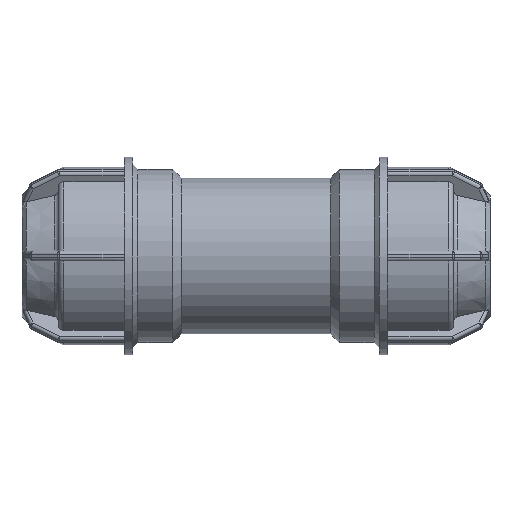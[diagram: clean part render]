
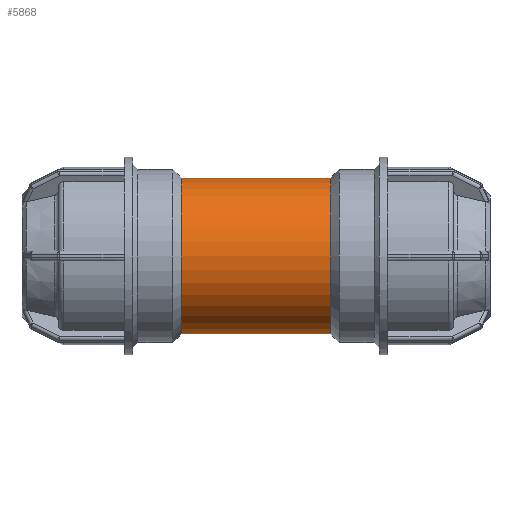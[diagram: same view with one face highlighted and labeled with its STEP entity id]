
A CAD part, front view. The second image highlights one B-rep face of the part: STEP entity #5868.
In plain terms, the highlighted cylindrical face has radius 28.8 mm (diameter 57.6 mm), a full revolution.
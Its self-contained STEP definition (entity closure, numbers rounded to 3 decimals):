
#1047=B_SPLINE_CURVE_WITH_KNOTS('',3,(#8914,#8915,#8916,#8917,#8918,#8919,
#8920,#8921,#8922,#8923,#8924,#8925,#8926,#8927,#8928,#8929,#8930,#8931,
#8932,#8933,#8934,#8935,#8936,#8937,#8938,#8939,#8940,#8941,#8942,#8943,
#8944,#8945,#8946,#8947,#8948,#8949,#8950,#8951,#8952,#8953,#8954,#8955,
#8956,#8957,#8958,#8959,#8960,#8961,#8962,#8963),.UNSPECIFIED.,.T.,.F.,
(4,2,2,2,2,2,2,2,2,2,2,2,2,2,2,2,2,2,2,2,2,2,2,2,4),(0.,0.305,
0.61,1.219,1.826,2.13,2.433,
2.737,3.04,3.647,4.257,4.562,
4.866,5.171,5.476,6.086,6.693,
6.996,7.3,7.603,7.907,8.514,
9.123,9.428,9.733),.UNSPECIFIED.);
#1229=FACE_BOUND('',#1680,.T.);
#1230=FACE_BOUND('',#1681,.T.);
#1269=FACE_OUTER_BOUND('',#1679,.T.);
#1679=EDGE_LOOP('',(#3924));
#1680=EDGE_LOOP('',(#3925));
#1681=EDGE_LOOP('',(#3926));
#2129=CIRCLE('',#6281,28.8);
#2130=CIRCLE('',#6282,28.8);
#2474=VERTEX_POINT('',#8909);
#2475=VERTEX_POINT('',#8911);
#2476=VERTEX_POINT('',#8913);
#3013=EDGE_CURVE('',#2474,#2474,#2129,.T.);
#3014=EDGE_CURVE('',#2475,#2475,#2130,.T.);
#3015=EDGE_CURVE('',#2476,#2476,#1047,.T.);
#3924=ORIENTED_EDGE('',*,*,#3013,.F.);
#3925=ORIENTED_EDGE('',*,*,#3014,.T.);
#3926=ORIENTED_EDGE('',*,*,#3015,.F.);
#5746=CYLINDRICAL_SURFACE('',#6280,28.8);
#5868=ADVANCED_FACE('',(#1269,#1229,#1230),#5746,.T.);
#6280=AXIS2_PLACEMENT_3D('',#8908,#7037,#7038);
#6281=AXIS2_PLACEMENT_3D('',#8910,#7039,#7040);
#6282=AXIS2_PLACEMENT_3D('',#8912,#7041,#7042);
#7037=DIRECTION('center_axis',(1.,0.,0.));
#7038=DIRECTION('ref_axis',(0.,1.,0.));
#7039=DIRECTION('center_axis',(1.,0.,0.));
#7040=DIRECTION('ref_axis',(0.,0.,-1.));
#7041=DIRECTION('center_axis',(1.,0.,0.));
#7042=DIRECTION('ref_axis',(0.,0.,-1.));
#8908=CARTESIAN_POINT('Origin',(13.8,0.,0.));
#8909=CARTESIAN_POINT('',(27.6,28.8,0.));
#8910=CARTESIAN_POINT('Origin',(27.6,0.,0.));
#8911=CARTESIAN_POINT('',(-27.6,28.8,0.));
#8912=CARTESIAN_POINT('Origin',(-27.6,0.,0.));
#8913=CARTESIAN_POINT('',(0.,24.111,15.751));
#8914=CARTESIAN_POINT('Ctrl Pts',(0.,24.111,15.751));
#8915=CARTESIAN_POINT('Ctrl Pts',(1.016,24.111,15.751));
#8916=CARTESIAN_POINT('Ctrl Pts',(2.057,24.177,15.652));
#8917=CARTESIAN_POINT('Ctrl Pts',(4.11,24.438,15.242));
#8918=CARTESIAN_POINT('Ctrl Pts',(5.123,24.631,14.932));
#8919=CARTESIAN_POINT('Ctrl Pts',(8.019,25.341,13.718));
#8920=CARTESIAN_POINT('Ctrl Pts',(9.76,25.981,12.515));
#8921=CARTESIAN_POINT('Ctrl Pts',(12.51,27.134,9.766));
#8922=CARTESIAN_POINT('Ctrl Pts',(13.716,27.731,8.023));
#8923=CARTESIAN_POINT('Ctrl Pts',(14.933,28.358,5.121));
#8924=CARTESIAN_POINT('Ctrl Pts',(15.243,28.525,4.106));
#8925=CARTESIAN_POINT('Ctrl Pts',(15.652,28.745,2.051));
#8926=CARTESIAN_POINT('Ctrl Pts',(15.751,28.8,1.012));
#8927=CARTESIAN_POINT('Ctrl Pts',(15.751,28.8,-1.012));
#8928=CARTESIAN_POINT('Ctrl Pts',(15.652,28.745,-2.051));
#8929=CARTESIAN_POINT('Ctrl Pts',(15.243,28.525,-4.106));
#8930=CARTESIAN_POINT('Ctrl Pts',(14.933,28.358,-5.121));
#8931=CARTESIAN_POINT('Ctrl Pts',(13.716,27.731,-8.023));
#8932=CARTESIAN_POINT('Ctrl Pts',(12.51,27.134,-9.766));
#8933=CARTESIAN_POINT('Ctrl Pts',(9.76,25.981,-12.515));
#8934=CARTESIAN_POINT('Ctrl Pts',(8.019,25.341,-13.718));
#8935=CARTESIAN_POINT('Ctrl Pts',(5.123,24.631,-14.932));
#8936=CARTESIAN_POINT('Ctrl Pts',(4.11,24.438,-15.242));
#8937=CARTESIAN_POINT('Ctrl Pts',(2.057,24.177,-15.652));
#8938=CARTESIAN_POINT('Ctrl Pts',(1.016,24.111,-15.751));
#8939=CARTESIAN_POINT('Ctrl Pts',(-1.016,24.111,-15.751));
#8940=CARTESIAN_POINT('Ctrl Pts',(-2.057,24.177,-15.652));
#8941=CARTESIAN_POINT('Ctrl Pts',(-4.11,24.438,-15.242));
#8942=CARTESIAN_POINT('Ctrl Pts',(-5.123,24.631,-14.932));
#8943=CARTESIAN_POINT('Ctrl Pts',(-8.019,25.341,-13.718));
#8944=CARTESIAN_POINT('Ctrl Pts',(-9.76,25.981,-12.515));
#8945=CARTESIAN_POINT('Ctrl Pts',(-12.51,27.134,-9.766));
#8946=CARTESIAN_POINT('Ctrl Pts',(-13.716,27.731,-8.023));
#8947=CARTESIAN_POINT('Ctrl Pts',(-14.933,28.358,-5.121));
#8948=CARTESIAN_POINT('Ctrl Pts',(-15.243,28.525,-4.106));
#8949=CARTESIAN_POINT('Ctrl Pts',(-15.652,28.745,-2.051));
#8950=CARTESIAN_POINT('Ctrl Pts',(-15.751,28.8,-1.012));
#8951=CARTESIAN_POINT('Ctrl Pts',(-15.751,28.8,1.012));
#8952=CARTESIAN_POINT('Ctrl Pts',(-15.652,28.745,2.051));
#8953=CARTESIAN_POINT('Ctrl Pts',(-15.243,28.525,4.106));
#8954=CARTESIAN_POINT('Ctrl Pts',(-14.933,28.358,5.121));
#8955=CARTESIAN_POINT('Ctrl Pts',(-13.716,27.731,8.023));
#8956=CARTESIAN_POINT('Ctrl Pts',(-12.51,27.134,9.766));
#8957=CARTESIAN_POINT('Ctrl Pts',(-9.76,25.981,12.515));
#8958=CARTESIAN_POINT('Ctrl Pts',(-8.019,25.341,13.718));
#8959=CARTESIAN_POINT('Ctrl Pts',(-5.123,24.631,14.932));
#8960=CARTESIAN_POINT('Ctrl Pts',(-4.11,24.438,15.242));
#8961=CARTESIAN_POINT('Ctrl Pts',(-2.057,24.177,15.652));
#8962=CARTESIAN_POINT('Ctrl Pts',(-1.016,24.111,15.751));
#8963=CARTESIAN_POINT('Ctrl Pts',(0.,24.111,15.751));
